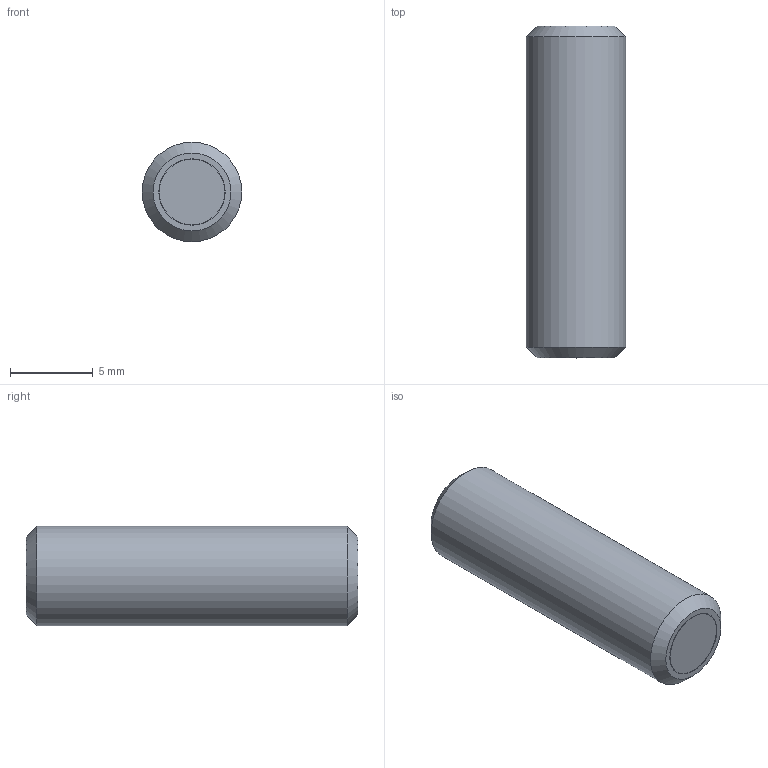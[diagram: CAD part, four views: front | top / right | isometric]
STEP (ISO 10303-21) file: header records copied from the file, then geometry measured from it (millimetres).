
FILE_DESCRIPTION(/* description */ ('STEP AP214'),/* implementation_level */ '2;1');
FILE_NAME(/* name */ 'Grub screw with retaining magnet GN 913.6-M6-20-ND',/* time_stamp */ '2023-10-03T11:26:08+02:00',/* author */ ('License CC BY-ND 4.0'),/* organization */ ('CADENAS'),/* preprocessor_version */ 'ST-DEVELOPER v19.3',/* originating_system */ 'PARTsolutions',/* authorisation */ ' ');
FILE_SCHEMA (('AUTOMOTIVE_DESIGN {1 0 10303 214 3 1 1}'));
Length unit declared in the file: millimetre
Products named in the file (1): Grub screw with retaining magnet GN 913.6-M6-20-ND
Bounding box: 6 x 20 x 6 mm (x, y, z)
Volume: 533.7 mm3; surface area: 449.5 mm2
Topology: 1 solids, 1 shells, 22 faces, 46 edges, 28 vertices
Faces by surface type: plane 16, cone 3, cylinder 3
Full cylindrical faces by diameter (mm): 3.96 x1, 4 x1, 6 x1
Entity records: 566 total; most frequent: DIRECTION 98, CARTESIAN_POINT 88, ORIENTED_EDGE 76, EDGE_CURVE 38, AXIS2_PLACEMENT_3D 37, FACE_BOUND 31, EDGE_LOOP 30, VERTEX_POINT 27
